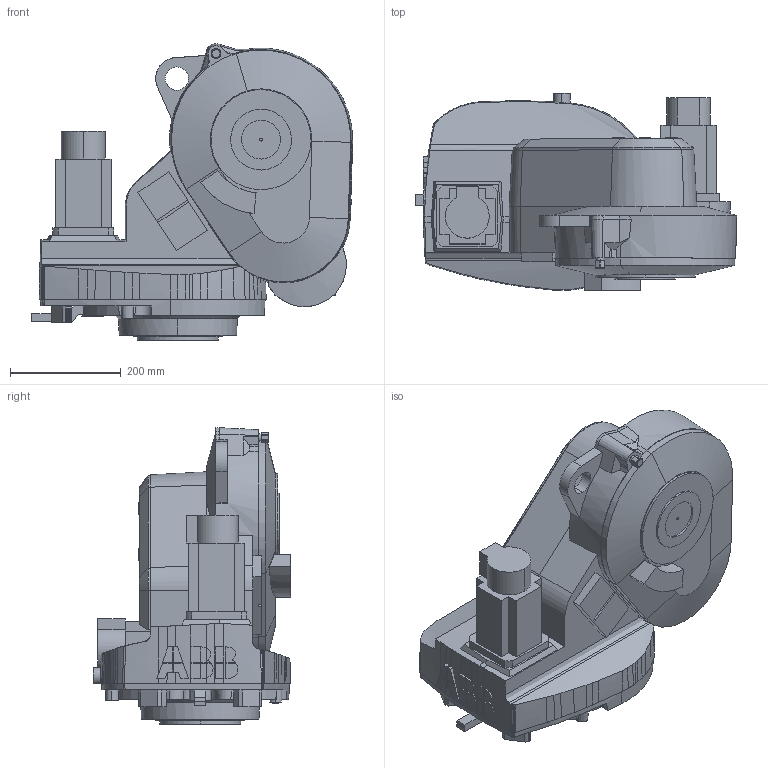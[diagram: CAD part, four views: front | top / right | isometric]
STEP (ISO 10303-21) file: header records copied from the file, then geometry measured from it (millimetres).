
FILE_DESCRIPTION (( 'STEP AP214' ), '1' );
FILE_NAME ('IRB1600ID_6-155_IRC5_rev0_LINK1.STEP', '2016-03-24T06:24:42', ( 'ABB' ), ( 'ABB' ), 'SwSTEP 2.0', 'SolidWorks 2014', '' );
FILE_SCHEMA (( 'AUTOMOTIVE_DESIGN' ));
Length unit declared in the file: millimetre
Products named in the file (1): IRB1600ID_6-155_IRC5_rev0_LINK1
Bounding box: 579.25 x 355.5 x 535.06 mm (x, y, z)
Volume: 40470925.9 mm3; surface area: 1129948.7 mm2
Topology: 4 solids, 4 shells, 632 faces, 1746 edges, 1147 vertices
Faces by surface type: plane 388, bspline 218, cylinder 15, cone 9, torus 2
Entity records: 24839 total; most frequent: CARTESIAN_POINT 10090, ORIENTED_EDGE 3492, DIRECTION 2103, EDGE_CURVE 1746, VECTOR 1173, LINE 1173, VERTEX_POINT 1147, EDGE_LOOP 659
